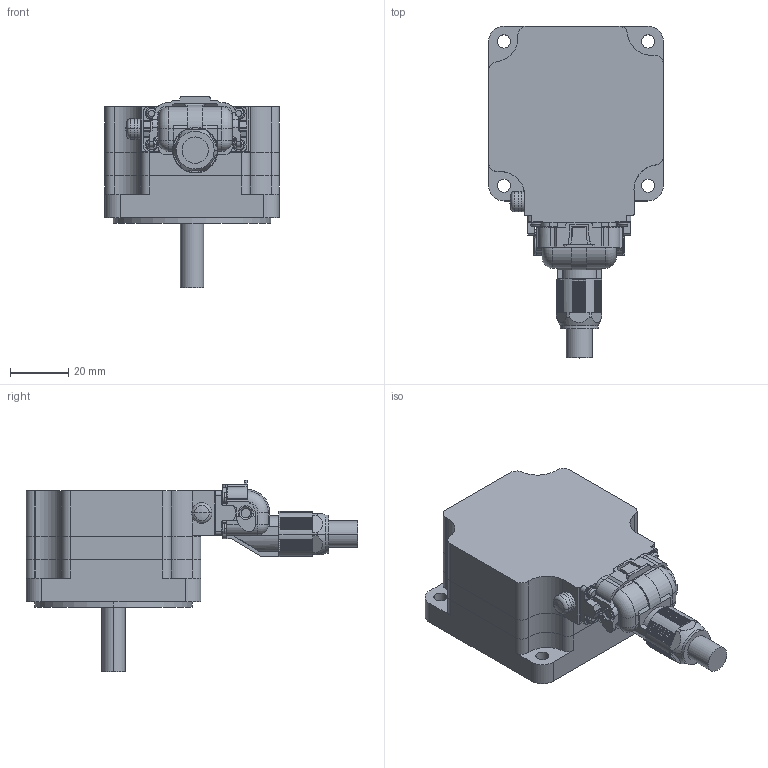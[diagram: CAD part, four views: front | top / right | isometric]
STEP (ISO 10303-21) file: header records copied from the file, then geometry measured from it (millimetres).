
FILE_DESCRIPTION (( 'STEP AP203' ), '1' );
FILE_NAME ('A1752_V.step', '2025-10-07T02:35:44', ( '' ), ( '' ), 'SwSTEP 2.0', 'SolidWorks 2023', '' );
FILE_SCHEMA (( 'CONFIG_CONTROL_DESIGN' ));
Length unit declared in the file: millimetre
Products named in the file (1): A1752_V
Bounding box: 60 x 113.9 x 65.55 mm (x, y, z)
Volume: 142433 mm3; surface area: 22673.8 mm2
Topology: 1 solids, 6 shells, 593 faces, 1607 edges, 1035 vertices
Faces by surface type: plane 323, cylinder 248, torus 12, cone 6, sphere 4
Entity records: 18852 total; most frequent: CARTESIAN_POINT 3438, DIRECTION 3305, ORIENTED_EDGE 3210, EDGE_CURVE 1605, AXIS2_PLACEMENT_3D 1138, VERTEX_POINT 1035, VECTOR 1029, LINE 1029
